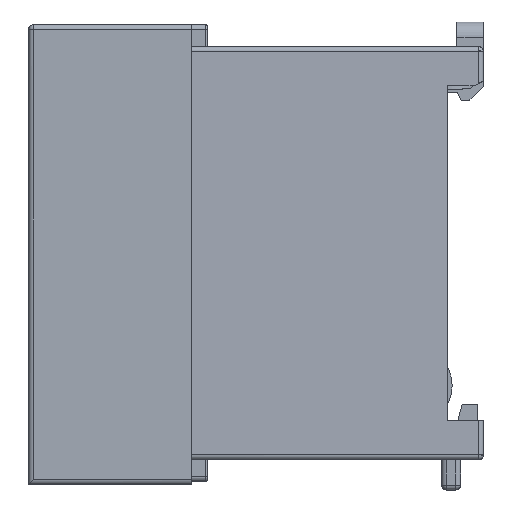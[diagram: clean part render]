
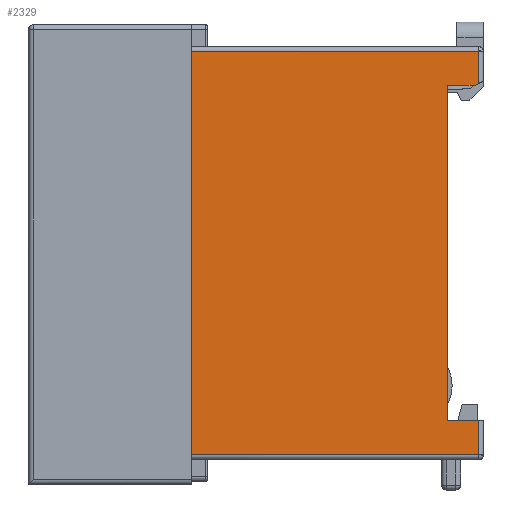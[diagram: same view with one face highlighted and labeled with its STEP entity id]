
A CAD part, left-side view. The second image highlights one B-rep face of the part: STEP entity #2329.
In plain terms, the highlighted planar face has unit normal (-1, -0.009, 0).
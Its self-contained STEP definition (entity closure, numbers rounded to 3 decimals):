
#10 = AXIS2_PLACEMENT_3D ( 'NONE', #13253, #16782, #6328 ) ;
#164 = ORIENTED_EDGE ( 'NONE', *, *, #15533, .F. ) ;
#249 = VERTEX_POINT ( 'NONE', #2669 ) ;
#604 = DIRECTION ( 'NONE',  ( 0., 0., 1. ) ) ;
#631 = DIRECTION ( 'NONE',  ( 0., 0., 1. ) ) ;
#812 = ORIENTED_EDGE ( 'NONE', *, *, #2715, .T. ) ;
#1037 = VECTOR ( 'NONE', #16589, 1000. ) ;
#1039 = LINE ( 'NONE', #11859, #18466 ) ;
#1236 = CARTESIAN_POINT ( 'NONE',  ( -22.239, -2.866, 17.7 ) ) ;
#1671 = LINE ( 'NONE', #8224, #4648 ) ;
#1735 = LINE ( 'NONE', #7450, #10417 ) ;
#2329 = ADVANCED_FACE ( 'NONE', ( #5825 ), #4575, .T. ) ;
#2669 = CARTESIAN_POINT ( 'NONE',  ( -22.5, 27.068, 21.3 ) ) ;
#2715 = EDGE_CURVE ( 'NONE', #7915, #249, #1735, .T. ) ;
#4378 = CARTESIAN_POINT ( 'NONE',  ( -22.236, -3.236, 21.8 ) ) ;
#4575 = PLANE ( 'NONE',  #10 ) ;
#4648 = VECTOR ( 'NONE', #18661, 1000. ) ;
#4696 = EDGE_CURVE ( 'NONE', #10990, #14372, #1671, .T. ) ;
#5043 = CARTESIAN_POINT ( 'NONE',  ( -22.264, 0.069, -21.3 ) ) ;
#5566 = LINE ( 'NONE', #21448, #14276 ) ;
#5825 = FACE_OUTER_BOUND ( 'NONE', #20770, .T. ) ;
#6145 = EDGE_CURVE ( 'NONE', #10693, #10990, #19274, .T. ) ;
#6328 = DIRECTION ( 'NONE',  ( 0.009, -1., 0. ) ) ;
#6372 = EDGE_CURVE ( 'NONE', #249, #16768, #1039, .T. ) ;
#6376 = VERTEX_POINT ( 'NONE', #18773 ) ;
#6500 = ORIENTED_EDGE ( 'NONE', *, *, #7199, .T. ) ;
#6566 = CARTESIAN_POINT ( 'NONE',  ( -22.264, 0.068, 17.7 ) ) ;
#7199 = EDGE_CURVE ( 'NONE', #19401, #6376, #18513, .T. ) ;
#7450 = CARTESIAN_POINT ( 'NONE',  ( -22.264, 0.069, 21.3 ) ) ;
#7562 = LINE ( 'NONE', #5043, #20879 ) ;
#7915 = VERTEX_POINT ( 'NONE', #18757 ) ;
#8224 = CARTESIAN_POINT ( 'NONE',  ( -22.264, 0.069, -17.7 ) ) ;
#9195 = DIRECTION ( 'NONE',  ( -0.009, 1., 0. ) ) ;
#10013 = VECTOR ( 'NONE', #604, 1000. ) ;
#10417 = VECTOR ( 'NONE', #9195, 1000. ) ;
#10684 = EDGE_CURVE ( 'NONE', #14372, #17954, #5566, .T. ) ;
#10693 = VERTEX_POINT ( 'NONE', #16324 ) ;
#10968 = ORIENTED_EDGE ( 'NONE', *, *, #17998, .T. ) ;
#10990 = VERTEX_POINT ( 'NONE', #17071 ) ;
#11410 = CARTESIAN_POINT ( 'NONE',  ( -22.239, -2.866, 17.7 ) ) ;
#11859 = CARTESIAN_POINT ( 'NONE',  ( -22.5, 27.068, 21.8 ) ) ;
#12045 = CARTESIAN_POINT ( 'NONE',  ( -22.264, 0.068, -17.7 ) ) ;
#13253 = CARTESIAN_POINT ( 'NONE',  ( -22.264, 0.069, 21.8 ) ) ;
#13603 = DIRECTION ( 'NONE',  ( 0., 0., -1. ) ) ;
#14276 = VECTOR ( 'NONE', #631, 1000. ) ;
#14372 = VERTEX_POINT ( 'NONE', #12045 ) ;
#14597 = CARTESIAN_POINT ( 'NONE',  ( -22.236, -3.236, 21.8 ) ) ;
#15201 = CARTESIAN_POINT ( 'NONE',  ( -22.5, 27.068, -21.3 ) ) ;
#15294 = VECTOR ( 'NONE', #20707, 1000. ) ;
#15533 = EDGE_CURVE ( 'NONE', #19401, #17954, #20467, .T. ) ;
#16019 = LINE ( 'NONE', #4378, #1037 ) ;
#16324 = CARTESIAN_POINT ( 'NONE',  ( -22.236, -3.236, -21.3 ) ) ;
#16589 = DIRECTION ( 'NONE',  ( 0., 0., 1. ) ) ;
#16768 = VERTEX_POINT ( 'NONE', #15201 ) ;
#16782 = DIRECTION ( 'NONE',  ( -1., -0.009, 0. ) ) ;
#17071 = CARTESIAN_POINT ( 'NONE',  ( -22.236, -3.236, -17.7 ) ) ;
#17234 = DIRECTION ( 'NONE',  ( 0.009, -1., 0. ) ) ;
#17822 = ORIENTED_EDGE ( 'NONE', *, *, #4696, .T. ) ;
#17954 = VERTEX_POINT ( 'NONE', #6566 ) ;
#17998 = EDGE_CURVE ( 'NONE', #16768, #10693, #7562, .T. ) ;
#18466 = VECTOR ( 'NONE', #13603, 1000. ) ;
#18513 = LINE ( 'NONE', #11410, #19047 ) ;
#18661 = DIRECTION ( 'NONE',  ( -0.009, 1., 0. ) ) ;
#18684 = ORIENTED_EDGE ( 'NONE', *, *, #20450, .T. ) ;
#18757 = CARTESIAN_POINT ( 'NONE',  ( -22.236, -3.236, 21.3 ) ) ;
#18773 = CARTESIAN_POINT ( 'NONE',  ( -22.236, -3.236, 17.914 ) ) ;
#18977 = CARTESIAN_POINT ( 'NONE',  ( -22.239, -2.866, 17.7 ) ) ;
#19047 = VECTOR ( 'NONE', #21772, 1000. ) ;
#19274 = LINE ( 'NONE', #14597, #10013 ) ;
#19401 = VERTEX_POINT ( 'NONE', #1236 ) ;
#20243 = ORIENTED_EDGE ( 'NONE', *, *, #6372, .T. ) ;
#20450 = EDGE_CURVE ( 'NONE', #6376, #7915, #16019, .T. ) ;
#20467 = LINE ( 'NONE', #18977, #15294 ) ;
#20707 = DIRECTION ( 'NONE',  ( -0.009, 1., 0. ) ) ;
#20770 = EDGE_LOOP ( 'NONE', ( #21599, #164, #6500, #18684, #812, #20243, #10968, #22314, #17822 ) ) ;
#20879 = VECTOR ( 'NONE', #17234, 1000. ) ;
#21448 = CARTESIAN_POINT ( 'NONE',  ( -22.264, 0.068, 21.8 ) ) ;
#21599 = ORIENTED_EDGE ( 'NONE', *, *, #10684, .T. ) ;
#21772 = DIRECTION ( 'NONE',  ( 0.008, -0.866, 0.5 ) ) ;
#22314 = ORIENTED_EDGE ( 'NONE', *, *, #6145, .T. ) ;
